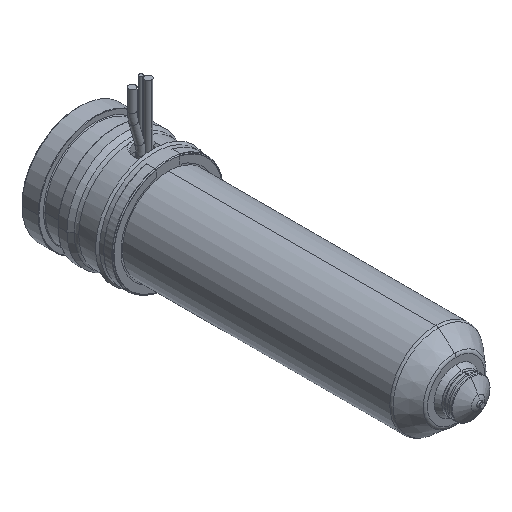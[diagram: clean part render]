
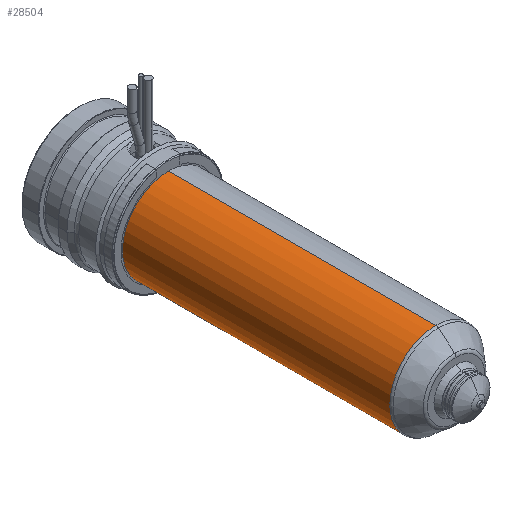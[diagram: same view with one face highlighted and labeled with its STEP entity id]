
A CAD part, isometric view. The second image highlights one B-rep face of the part: STEP entity #28504.
In plain terms, the highlighted cylindrical face has radius 12 mm (diameter 24 mm), a partial arc.
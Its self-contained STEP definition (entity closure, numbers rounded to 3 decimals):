
#27891=CARTESIAN_POINT('',(0.,-93.736,0.));
#27892=DIRECTION('',(0.,-1.,0.));
#27893=DIRECTION('',(0.,0.,1.));
#27894=AXIS2_PLACEMENT_3D('',#27891,#27892,#27893);
#27899=CARTESIAN_POINT('',(0.,-24.,0.));
#27900=DIRECTION('',(0.,1.,0.));
#27901=DIRECTION('',(0.,0.,-1.));
#27902=AXIS2_PLACEMENT_3D('',#27899,#27900,#27901);
#27907=DIRECTION('',(0.,1.,0.));
#27908=VECTOR('',#27907,69.736);
#27909=CARTESIAN_POINT('',(0.,-93.736,12.));
#27910=LINE('',#27909,#27908);
#27922=DIRECTION('',(0.,1.,0.));
#27923=VECTOR('',#27922,69.736);
#27924=CARTESIAN_POINT('',(0.,-93.736,-12.));
#27925=LINE('',#27924,#27923);
#28109=CARTESIAN_POINT('',(0.,-93.736,12.));
#28110=CARTESIAN_POINT('',(0.,-24.,12.));
#28111=VERTEX_POINT('',#28109);
#28112=VERTEX_POINT('',#28110);
#28113=CARTESIAN_POINT('',(0.,-93.736,-12.));
#28114=CARTESIAN_POINT('',(0.,-24.,-12.));
#28115=VERTEX_POINT('',#28113);
#28116=VERTEX_POINT('',#28114);
#28490=CARTESIAN_POINT('',(0.,-15.7,0.));
#28491=DIRECTION('',(0.,-1.,0.));
#28492=DIRECTION('',(0.,0.,1.));
#28493=AXIS2_PLACEMENT_3D('',#28490,#28491,#28492);
#28494=CYLINDRICAL_SURFACE('',#28493,12.);
#28496=ORIENTED_EDGE('',*,*,#28495,.F.);
#28497=ORIENTED_EDGE('',*,*,#28485,.T.);
#28499=ORIENTED_EDGE('',*,*,#28498,.T.);
#28501=ORIENTED_EDGE('',*,*,#28500,.T.);
#28502=EDGE_LOOP('',(#28496,#28497,#28499,#28501));
#28503=FACE_OUTER_BOUND('',#28502,.F.);
#28504=ADVANCED_FACE('',(#28503),#28494,.T.);
#27895=CIRCLE('',#27894,12.);
#27903=CIRCLE('',#27902,12.);
#28485=EDGE_CURVE('',#28111,#28115,#27895,.T.);
#28495=EDGE_CURVE('',#28111,#28112,#27910,.T.);
#28498=EDGE_CURVE('',#28115,#28116,#27925,.T.);
#28500=EDGE_CURVE('',#28116,#28112,#27903,.T.);
